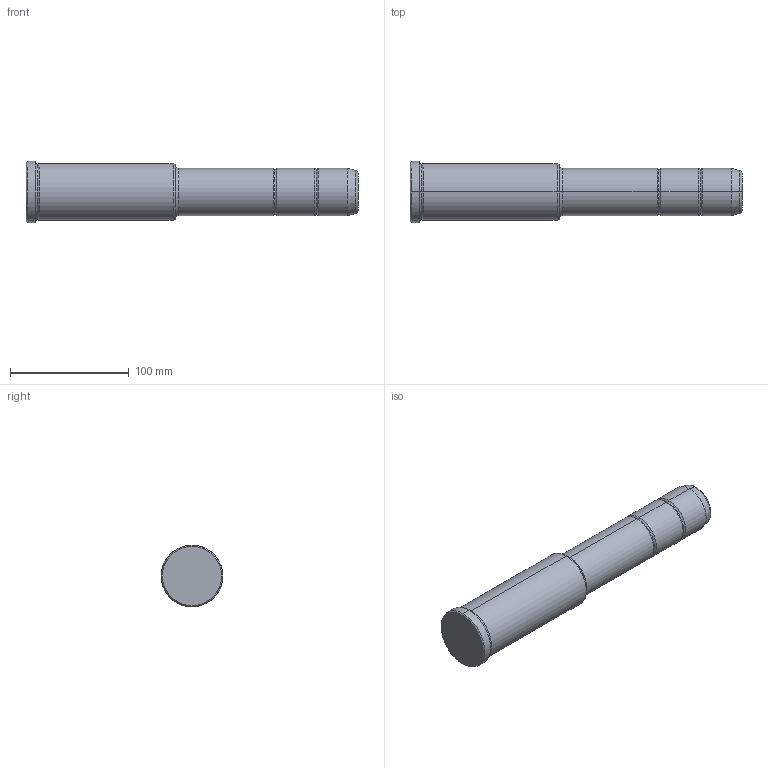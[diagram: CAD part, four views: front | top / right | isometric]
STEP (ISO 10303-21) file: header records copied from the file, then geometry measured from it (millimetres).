
FILE_DESCRIPTION(('CATIA V5 STEP Exchange'),'2;1');
FILE_NAME('C:\Users\Utente\Desktop\IO LAVORO\3D X SITO CF\X SITO\PLASTICA\351\351-40X126X280.stp','2021-11-03T19:12:03+00:00',('none'),('none'),'CATIA Version 5 Release 20 GA (IN-10)','CATIA V5 STEP AP203','none');
FILE_SCHEMA(('CONFIG_CONTROL_DESIGN'));
Length unit declared in the file: millimetre
Products named in the file (1): 351-40X126X280
Bounding box: 280 x 52 x 52 mm (x, y, z)
Volume: 421855.8 mm3; surface area: 42148.4 mm2
Topology: 1 solids, 1 shells, 36 faces, 102 edges, 70 vertices
Faces by surface type: torus 16, cylinder 10, cone 6, plane 4
Entity records: 1292 total; most frequent: CARTESIAN_POINT 321, ORIENTED_EDGE 204, DIRECTION 166, AXIS2_PLACEMENT_3D 115, EDGE_CURVE 102, CIRCLE 78, VERTEX_POINT 70, EDGE_LOOP 38
